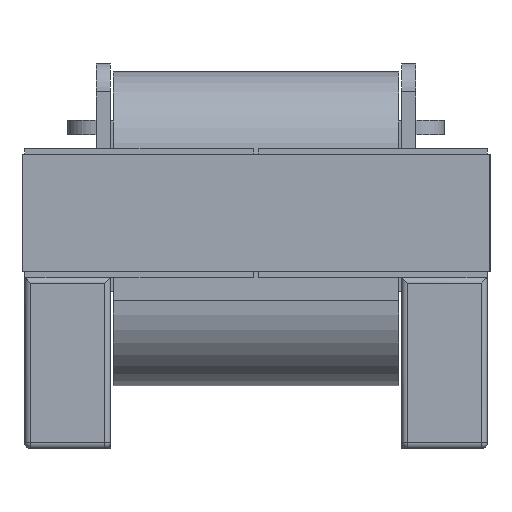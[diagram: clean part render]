
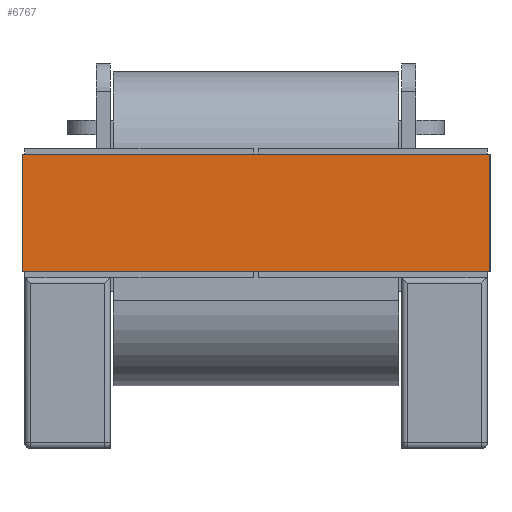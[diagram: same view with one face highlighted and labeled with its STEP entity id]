
A CAD part, left-side view. The second image highlights one B-rep face of the part: STEP entity #6767.
In plain terms, the highlighted planar face has unit normal (-1, 0, 0).
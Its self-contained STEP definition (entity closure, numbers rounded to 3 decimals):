
#6731 = EDGE_CURVE('',#6732,#6734,#6736,.T.);
#6732 = VERTEX_POINT('',#6733);
#6733 = CARTESIAN_POINT('',(-8.1,8.2,0.));
#6734 = VERTEX_POINT('',#6735);
#6735 = CARTESIAN_POINT('',(-8.1,8.2,4.1));
#6736 = LINE('',#6737,#6738);
#6737 = CARTESIAN_POINT('',(-8.1,8.2,0.));
#6738 = VECTOR('',#6739,1.);
#6739 = DIRECTION('',(0.,0.,1.));
#6767 = ADVANCED_FACE('',(#6768),#6793,.T.);
#6768 = FACE_BOUND('',#6769,.T.);
#6769 = EDGE_LOOP('',(#6770,#6780,#6786,#6787));
#6770 = ORIENTED_EDGE('',*,*,#6771,.T.);
#6771 = EDGE_CURVE('',#6772,#6774,#6776,.T.);
#6772 = VERTEX_POINT('',#6773);
#6773 = CARTESIAN_POINT('',(-8.1,-8.2,0.));
#6774 = VERTEX_POINT('',#6775);
#6775 = CARTESIAN_POINT('',(-8.1,-8.2,4.1));
#6776 = LINE('',#6777,#6778);
#6777 = CARTESIAN_POINT('',(-8.1,-8.2,0.));
#6778 = VECTOR('',#6779,1.);
#6779 = DIRECTION('',(0.,0.,1.));
#6780 = ORIENTED_EDGE('',*,*,#6781,.T.);
#6781 = EDGE_CURVE('',#6774,#6734,#6782,.T.);
#6782 = LINE('',#6783,#6784);
#6783 = CARTESIAN_POINT('',(-8.1,-8.2,4.1));
#6784 = VECTOR('',#6785,1.);
#6785 = DIRECTION('',(0.,1.,0.));
#6786 = ORIENTED_EDGE('',*,*,#6731,.F.);
#6787 = ORIENTED_EDGE('',*,*,#6788,.F.);
#6788 = EDGE_CURVE('',#6772,#6732,#6789,.T.);
#6789 = LINE('',#6790,#6791);
#6790 = CARTESIAN_POINT('',(-8.1,-8.2,0.));
#6791 = VECTOR('',#6792,1.);
#6792 = DIRECTION('',(0.,1.,0.));
#6793 = PLANE('',#6794);
#6794 = AXIS2_PLACEMENT_3D('',#6795,#6796,#6797);
#6795 = CARTESIAN_POINT('',(-8.1,-8.2,0.));
#6796 = DIRECTION('',(-1.,0.,0.));
#6797 = DIRECTION('',(0.,1.,0.));
